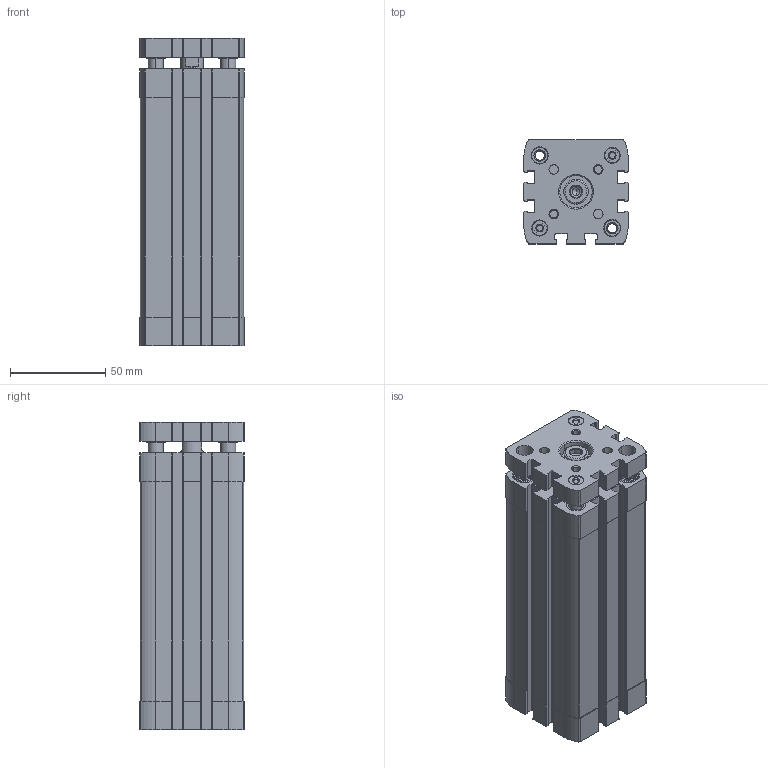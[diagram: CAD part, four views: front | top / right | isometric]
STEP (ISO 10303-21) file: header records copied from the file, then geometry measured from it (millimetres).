
FILE_DESCRIPTION (( 'STEP AP203' ), '1' );
FILE_NAME ('CCNG40-100.STEP', '2017-04-20T13:15:34', ( '' ), ( '' ), 'SwSTEP 2.0', 'SolidWorks 2016', '' );
FILE_SCHEMA (( 'CONFIG_CONTROL_DESIGN' ));
Length unit declared in the file: millimetre
Products named in the file (3): CCNG-40-100----(KS); CCNG40-100; CCNG-40-100----(Z)
Assembly tree (2 placements, depth 2):
  CCNG40-100
    CCNG-40-100----(Z)
    CCNG-40-100----(KS)
Bounding box: 54.5 x 54.5 x 161.1 mm (x, y, z)
Volume: 286825.2 mm3; surface area: 104642.9 mm2
Topology: 2 solids, 4 shells, 715 faces, 1928 edges, 1263 vertices
Faces by surface type: plane 363, cylinder 274, cone 72, bspline 6
Entity records: 23175 total; most frequent: CARTESIAN_POINT 4445, DIRECTION 3972, ORIENTED_EDGE 3852, EDGE_CURVE 1926, AXIS2_PLACEMENT_3D 1466, VERTEX_POINT 1263, LINE 1040, VECTOR 1040
